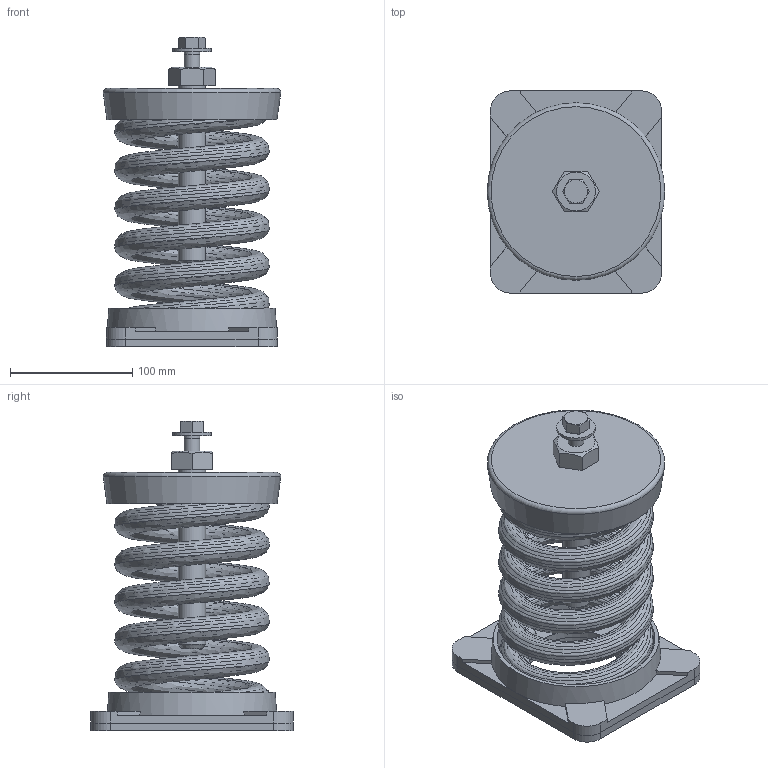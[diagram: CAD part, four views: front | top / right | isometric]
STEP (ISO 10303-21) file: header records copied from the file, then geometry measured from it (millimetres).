
FILE_DESCRIPTION(/* description */ (''),/* implementation_level */ '2;1');
FILE_NAME(/* name */ 'C:\001_Work\Designs\SLF ASSEMBLIES\SLF-110.stp',/* time_stamp */ '2016-01-10T14:16:50-05:00',/* author */ ('rramoutar'),/* organization */ ('Mason Industries Inc.'),/* preprocessor_version */ 'ST-DEVELOPER v15.6',/* originating_system */ 'Autodesk Inventor 2015',/* authorisation */ '');
FILE_SCHEMA (('CONFIG_CONTROL_DESIGN'));
Length unit declared in the file: inch
Products named in the file (1): SLF-110
Bounding box: 145.06 x 165.1 x 253.09 mm (x, y, z)
Volume: 632782 mm3; surface area: 416885.2 mm2
Topology: 7 solids, 7 shells, 156 faces, 383 edges, 250 vertices
Faces by surface type: plane 93, cylinder 25, bspline 22, cone 14, torus 2
Full cylindrical faces by diameter (mm): 12.7 x6, 13.487 x1, 19.05 x1, 19.447 x1, 22.225 x1, 31.75 x1, 76.2 x2, 129.381 x2
Entity records: 14736 total; most frequent: CARTESIAN_POINT 11156, ORIENTED_EDGE 702, DIRECTION 628, EDGE_CURVE 351, VERTEX_POINT 243, AXIS2_PLACEMENT_3D 232, EDGE_LOOP 200, LINE 164
